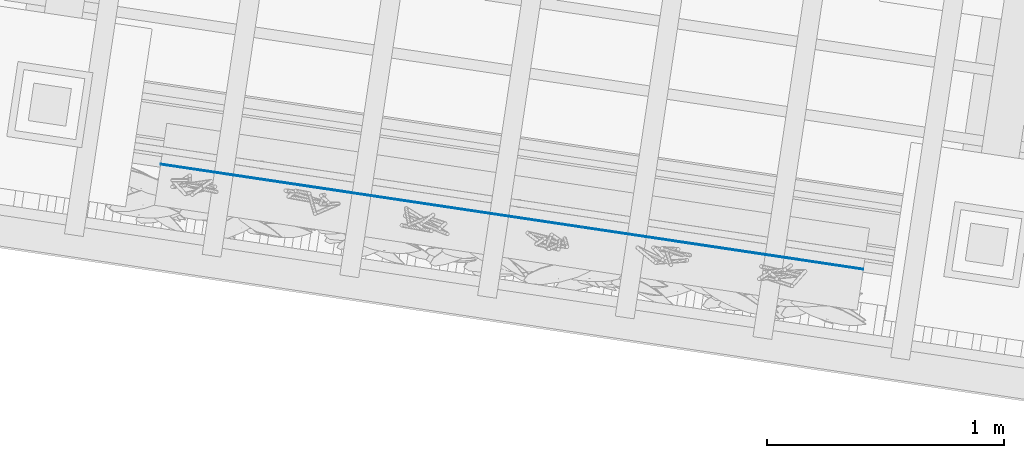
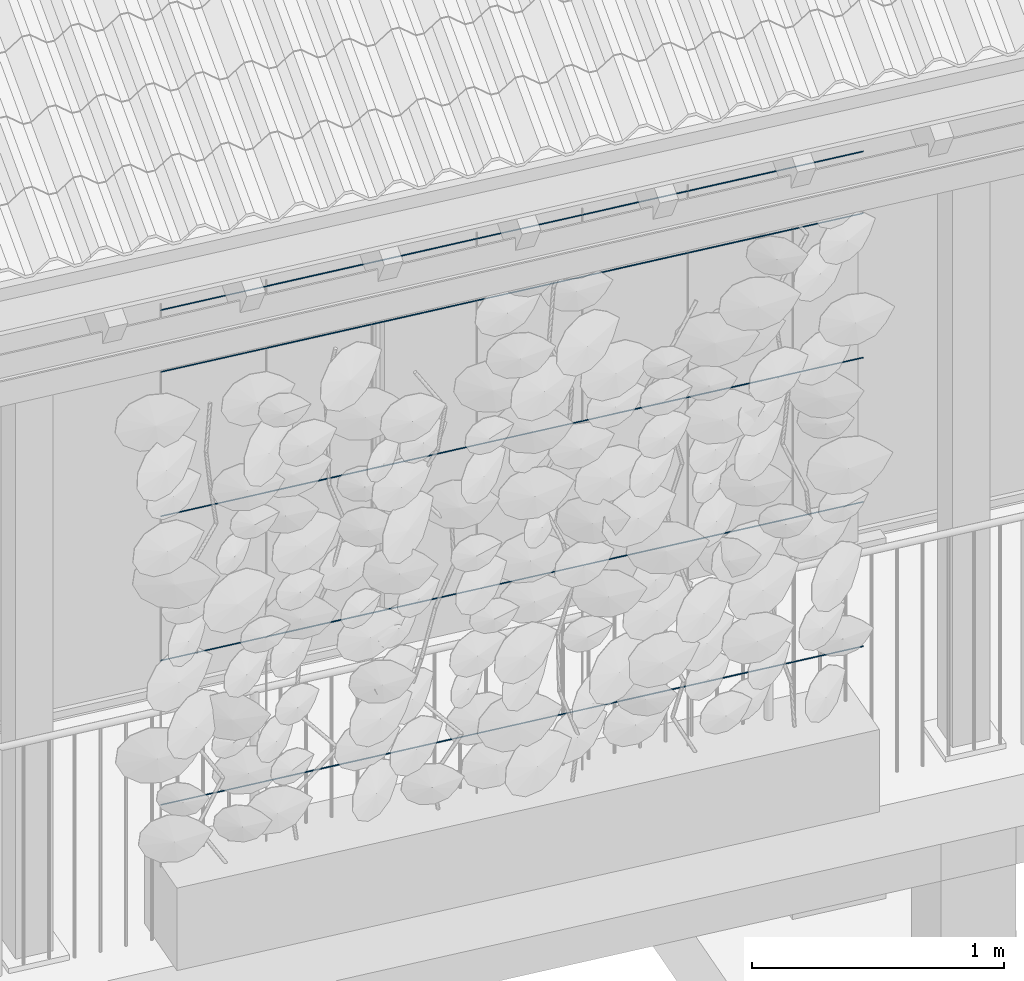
# One storey, part 45 of 131: 5 members, 1 element without a shape of its own.
"""IFC4 building model written with IfcOpenShell, lengths in metres."""

from ifc_helpers import new_model, si_unit, direction, frame, origin_with_axes, place, context, subcontext, project, spatial, circle, extrude, material, material_profile, profile_set, profile_usage, type_object, element, aggregate, save


model = new_model("IFC4")

# Units and contexts
model_context = context("Model", 3, precision=1e-05, world=origin_with_axes(), true_north=direction((0.0, 1.0)))
body_context = subcontext(model_context, "Body", "Model", "MODEL_VIEW")
ifc_project = project(units=[si_unit("AREAUNIT", "SQUARE_METRE"), si_unit("VOLUMEUNIT", "CUBIC_METRE"), si_unit("LENGTHUNIT", "METRE")], contexts=[model_context])

# Site, building, storey
site_placement = place(None, origin_with_axes())
site = spatial("IfcSite", under=ifc_project, at=site_placement, Name="Lares · Rua das Mercês · artigo 4771")
building_placement = place(site_placement, frame((15.0, 9.7, 14.65), z_axis=(0.0, 0.0, 1.0), x_axis=(0.989015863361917, -0.147809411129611, 0.0)))
building = spatial("IfcBuilding", under=site, at=building_placement, Name="Casa Sobreposta")
storey_placement = place(building_placement, origin_with_axes())
storey = spatial("IfcBuildingStorey", under=building, at=storey_placement, Name="00 · Habitação e estacionamento", Elevation=14.65)

# Assembly, members
assembly_placement = place(storey_placement, origin_with_axes())
assembly = element("IfcElementAssembly", 1, at=assembly_placement, inside=storey, Name="Fachada sul e pátio · estrutura e trepadeiras", ObjectType="LIVING_SHADE_TRELLIS", PredefinedType="USERDEFINED")
ifc_material = material(Name="Aço galvanizado / Stahl verzinkt", Category="steel")
ifc_material_profile = material_profile(ifc_material, circle(Radius=0.002))
ifc_profile_set = profile_set([ifc_material_profile], Name="D0.004")
ifc_profile_usage_1 = profile_usage(ifc_profile_set)
member_type = type_object("IfcMemberType", Name="D0.004 / galvanized", PredefinedType="NOTDEFINED", material=ifc_profile_set)
member_1_placement = place(assembly_placement, frame((4.5, -1.61, 0.65), z_axis=(1.0, 0.0, 0.0), x_axis=(0.0, -1.0, 0.0)))
member_1 = element("IfcMember", 2, at=member_1_placement, type_object=member_type, material=ifc_profile_usage_1, Name="Trepadeiras · fio horizontal", context=body_context, shape_type="SweptSolid", body=[
    extrude(circle(Radius=0.002), origin_with_axes(), (0.0, 0.0, 1.0), 3.0),
])
ifc_profile_usage_2 = profile_usage(ifc_profile_set)
member_2_placement = place(assembly_placement, frame((4.5, -1.61, 1.35), z_axis=(1.0, 0.0, 0.0), x_axis=(0.0, -1.0, 0.0)))
member_2 = element("IfcMember", 3, at=member_2_placement, type_object=member_type, material=ifc_profile_usage_2, Name="Trepadeiras · fio horizontal", context=body_context, shape_type="SweptSolid", body=[
    extrude(circle(Radius=0.002), origin_with_axes(), (0.0, 0.0, 1.0), 3.0),
])
ifc_profile_usage_3 = profile_usage(ifc_profile_set)
member_3_placement = place(assembly_placement, frame((4.5, -1.61, 2.05), z_axis=(1.0, 0.0, 0.0), x_axis=(0.0, -1.0, 0.0)))
member_3 = element("IfcMember", 4, at=member_3_placement, type_object=member_type, material=ifc_profile_usage_3, Name="Trepadeiras · fio horizontal", context=body_context, shape_type="SweptSolid", body=[
    extrude(circle(Radius=0.002), origin_with_axes(), (0.0, 0.0, 1.0), 3.0),
])
ifc_profile_usage_4 = profile_usage(ifc_profile_set)
member_4_placement = place(assembly_placement, frame((4.5, -1.61, 2.75), z_axis=(1.0, 0.0, 0.0), x_axis=(0.0, -1.0, 0.0)))
member_4 = element("IfcMember", 5, at=member_4_placement, type_object=member_type, material=ifc_profile_usage_4, Name="Trepadeiras · fio horizontal", context=body_context, shape_type="SweptSolid", body=[
    extrude(circle(Radius=0.002), origin_with_axes(), (0.0, 0.0, 1.0), 3.0),
])
ifc_profile_usage_5 = profile_usage(ifc_profile_set)
member_5_placement = place(assembly_placement, frame((4.5, -1.61, 3.05), z_axis=(1.0, 0.0, 0.0), x_axis=(0.0, -1.0, 0.0)))
member_5 = element("IfcMember", 6, at=member_5_placement, type_object=member_type, material=ifc_profile_usage_5, Name="Trepadeiras · fio horizontal", context=body_context, shape_type="SweptSolid", body=[
    extrude(circle(Radius=0.002), origin_with_axes(), (0.0, 0.0, 1.0), 3.0),
])
aggregate(assembly, [member_1, member_2, member_3, member_4, member_5])

save(model, "model.ifc")
